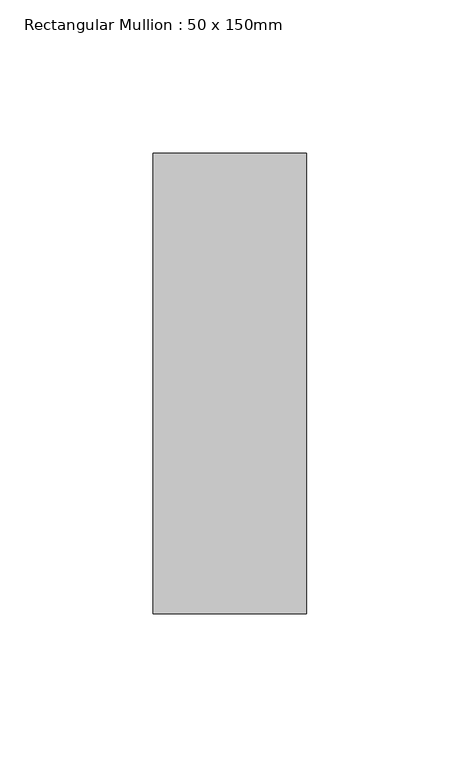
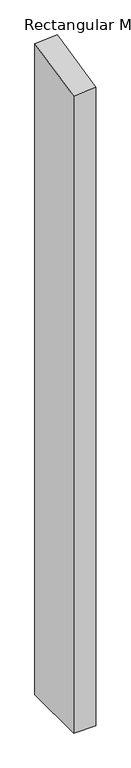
"""IFC4 building model written with IfcOpenShell, lengths in millimetres: member geometry, Rectangular Mullion : 50 x 150mm."""

from ifc_helpers import new_model, si_unit, origin, place, context, project, spatial, faceted_brep, source, transform, mapped, element, save


def rectangular_mullion_50_x_150mm_84a9ff01(model_context):
    return source(origin(), model_context, "Body", "Brep", [
        faceted_brep([(0.0, 75.0, -1529.124159), (0.0, -75.0, -1529.124159), (-50.0, -75.0, -1529.124159), (-50.0, 75.0, -1529.124159), (-50.0, 75.0, 13.4004976), (0.0, 75.0, 16.5867614), (-50.0, -75.0, -19.7730253), (0.0, -75.0, -16.5867614)], [[[0, 1, 2, 3]], [[4, 5, 0, 3]], [[6, 4, 3, 2]], [[7, 6, 2, 1]], [[5, 7, 1, 0]], [[5, 4, 6, 7]]]),
    ])


if __name__ == "__main__":
    model = new_model("IFC4")
    model_context = context("Model", 3, world=origin())
    ifc_project = project(units=[si_unit("LENGTHUNIT", "METRE", prefix="MILLI")], contexts=[model_context])
    site = spatial("IfcSite", under=ifc_project)
    building = spatial("IfcBuilding", under=site)
    placement = place(None, origin())
    rectangular_mullion_50_x_150mm_shape = rectangular_mullion_50_x_150mm_84a9ff01(model_context)
    element("IfcMember", 1, ObjectType="Rectangular Mullion : 50 x 150mm", at=placement, inside=building, context=model_context, shape_type="MappedRepresentation", body=[
        mapped(rectangular_mullion_50_x_150mm_shape, transform((0.0, 0.0, 0.0), x_axis=(1.0, 0.0, 0.0), y_axis=(0.0, 1.0, 0.0), z_axis=(0.0, 0.0, 1.0))),
    ])
    save(model, "model.ifc")
